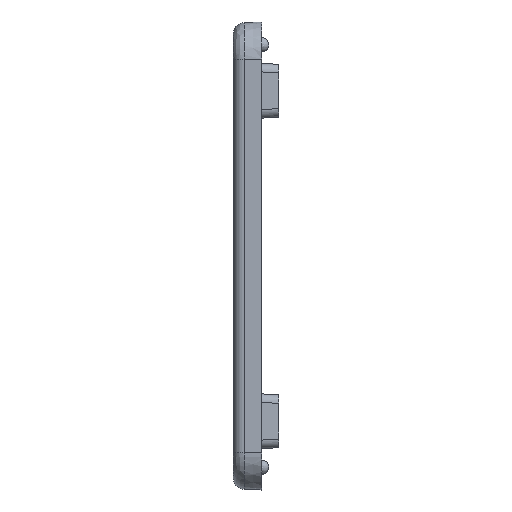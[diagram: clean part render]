
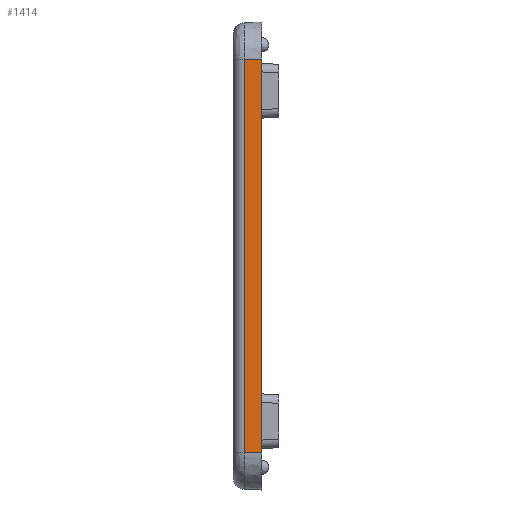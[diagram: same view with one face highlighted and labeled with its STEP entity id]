
A CAD part, left-side view. The second image highlights one B-rep face of the part: STEP entity #1414.
In plain terms, the highlighted planar face has unit normal (-0.999, 0.035, 0).
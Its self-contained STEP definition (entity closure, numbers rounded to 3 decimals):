
#117=PLANE('',#1559);
#177=FACE_OUTER_BOUND('',#273,.T.);
#273=EDGE_LOOP('',(#1151,#1152,#1153,#1154,#1155,#1156,#1157,#1158));
#332=LINE('',#2139,#448);
#340=LINE('',#2155,#456);
#348=LINE('',#2171,#464);
#378=LINE('',#2327,#494);
#383=LINE('',#2468,#499);
#384=LINE('',#2470,#500);
#385=LINE('',#2471,#501);
#386=LINE('',#2472,#502);
#448=VECTOR('',#1694,10.);
#456=VECTOR('',#1702,10.);
#464=VECTOR('',#1710,10.);
#494=VECTOR('',#1856,10.);
#499=VECTOR('',#1885,10.002);
#500=VECTOR('',#1888,10.002);
#501=VECTOR('',#1889,10.);
#502=VECTOR('',#1890,10.);
#602=VERTEX_POINT('',#2136);
#603=VERTEX_POINT('',#2138);
#610=VERTEX_POINT('',#2152);
#611=VERTEX_POINT('',#2154);
#618=VERTEX_POINT('',#2168);
#619=VERTEX_POINT('',#2170);
#666=VERTEX_POINT('',#2323);
#667=VERTEX_POINT('',#2325);
#742=EDGE_CURVE('',#603,#602,#332,.T.);
#750=EDGE_CURVE('',#611,#610,#340,.T.);
#758=EDGE_CURVE('',#619,#618,#348,.T.);
#828=EDGE_CURVE('',#667,#666,#378,.T.);
#843=EDGE_CURVE('',#666,#602,#383,.T.);
#844=EDGE_CURVE('',#619,#667,#384,.T.);
#845=EDGE_CURVE('',#618,#611,#385,.T.);
#846=EDGE_CURVE('',#610,#603,#386,.T.);
#1151=ORIENTED_EDGE('',*,*,#828,.F.);
#1152=ORIENTED_EDGE('',*,*,#844,.F.);
#1153=ORIENTED_EDGE('',*,*,#758,.T.);
#1154=ORIENTED_EDGE('',*,*,#845,.T.);
#1155=ORIENTED_EDGE('',*,*,#750,.T.);
#1156=ORIENTED_EDGE('',*,*,#846,.T.);
#1157=ORIENTED_EDGE('',*,*,#742,.T.);
#1158=ORIENTED_EDGE('',*,*,#843,.F.);
#1414=ADVANCED_FACE('',(#177),#117,.T.);
#1559=AXIS2_PLACEMENT_3D('',#2469,#1886,#1887);
#1694=DIRECTION('',(0.,0.,1.));
#1702=DIRECTION('',(0.,0.,1.));
#1710=DIRECTION('',(0.,0.,1.));
#1856=DIRECTION('',(0.,0.,1.));
#1885=DIRECTION('',(-0.035,-0.999,0.014));
#1886=DIRECTION('center_axis',(-0.999,0.035,0.));
#1887=DIRECTION('ref_axis',(0.,0.,1.));
#1888=DIRECTION('',(0.035,0.999,0.014));
#1889=DIRECTION('',(0.,0.,1.));
#1890=DIRECTION('',(0.,0.,1.));
#2136=CARTESIAN_POINT('',(0.25,0.,-3.502));
#2138=CARTESIAN_POINT('',(0.25,0.,-3.884));
#2139=CARTESIAN_POINT('',(0.25,0.,-38.068));
#2152=CARTESIAN_POINT('',(0.25,0.,-8.684));
#2154=CARTESIAN_POINT('',(0.25,0.,-32.884));
#2155=CARTESIAN_POINT('',(0.25,0.,-38.068));
#2168=CARTESIAN_POINT('',(0.25,0.,-37.684));
#2170=CARTESIAN_POINT('',(0.25,0.,-38.066));
#2171=CARTESIAN_POINT('',(0.25,0.,-38.068));
#2323=CARTESIAN_POINT('',(0.304,1.535,-3.523));
#2325=CARTESIAN_POINT('',(0.304,1.535,-38.045));
#2327=CARTESIAN_POINT('',(0.304,1.535,-12.142));
#2468=CARTESIAN_POINT('',(0.288,1.084,-3.517));
#2469=CARTESIAN_POINT('Origin',(0.25,0.,-3.5));
#2470=CARTESIAN_POINT('',(0.271,0.602,-38.058));
#2471=CARTESIAN_POINT('',(0.25,0.,-38.068));
#2472=CARTESIAN_POINT('',(0.25,0.,-38.068));
